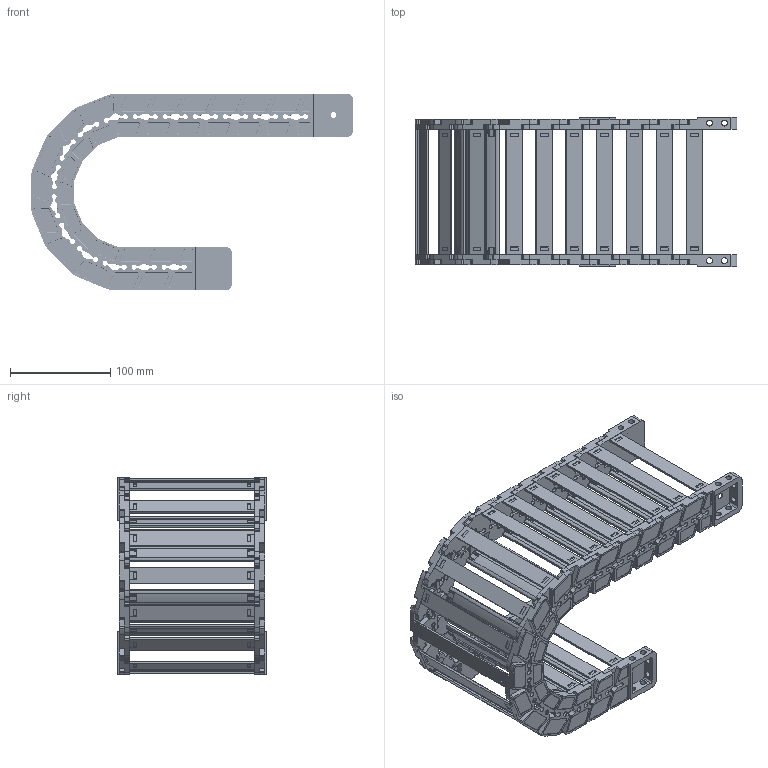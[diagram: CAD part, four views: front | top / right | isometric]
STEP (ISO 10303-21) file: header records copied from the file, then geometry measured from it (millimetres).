
FILE_DESCRIPTION((''),'2;1');
FILE_NAME('JY-35X125-R75_ASM','2025-01-05T19:10:58',('admin'),(''),'CREO PARAMETRIC BY PTC INC, 2021023','CREO PARAMETRIC BY PTC INC, 2021023','');
FILE_SCHEMA(('CONFIG_CONTROL_DESIGN'));
Length unit declared in the file: millimetre
Products named in the file (11): 35XL-L; YP; 35XL-R; ASM0001_ASM; 35-LTT-A-L; 35-LTT-A-R; 35XL-LTT-A_ASM; 35-LTT-B-L; 35-LTT-B-R; 35XL-LTT-B_ASM; JY-35X125-R75_ASM
Assembly tree (29 placements, depth 3):
  JY-35X125-R75_ASM
    ASM0001_ASM  x15
      35XL-L
      YP
      35XL-R
    35XL-LTT-A_ASM
      35-LTT-A-L
      YP  x2
      35-LTT-A-R
    35XL-LTT-B_ASM
      35-LTT-B-L
      YP  x2
      35-LTT-B-R
Bounding box: 321.72 x 149.5 x 196.34 mm (x, y, z)
Volume: 589213.2 mm3; surface area: 362469.2 mm2
Topology: 68 solids, 68 shells, 5536 faces, 16584 edges, 11192 vertices
Faces by surface type: plane 3130, cylinder 1830, cone 352, extrusion 128, bspline 96
Entity records: 27842 total; most frequent: CARTESIAN_POINT 6162, ORIENTED_EDGE 4640, DIRECTION 4353, EDGE_CURVE 2320, VERTEX_POINT 1568, AXIS2_PLACEMENT_3D 1468, VECTOR 1417, LINE 1401
